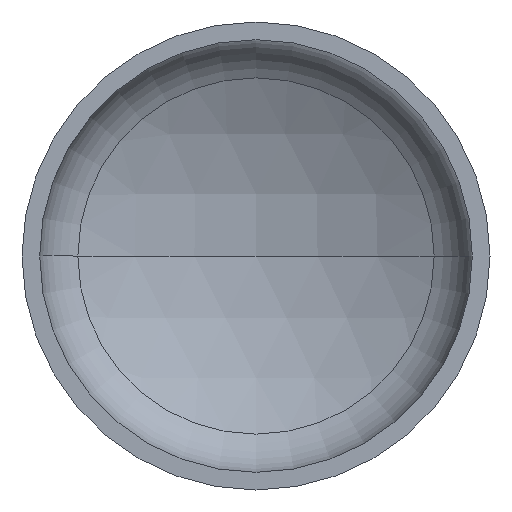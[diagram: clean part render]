
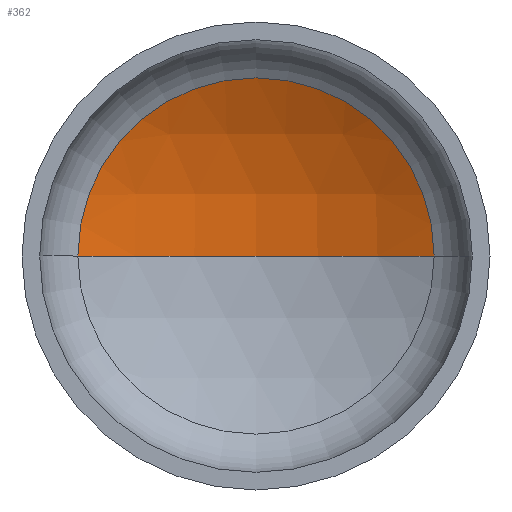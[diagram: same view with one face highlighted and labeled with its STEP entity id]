
A CAD part, front view. The second image highlights one B-rep face of the part: STEP entity #362.
In plain terms, the highlighted spherical face has radius 720 mm.
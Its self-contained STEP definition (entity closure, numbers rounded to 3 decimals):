
#9 = AXIS2_PLACEMENT_3D ( 'NONE', #298, #123, #151 ) ;
#21 = EDGE_LOOP ( 'NONE', ( #132, #125, #96 ) ) ;
#30 = VERTEX_POINT ( 'NONE', #256 ) ;
#39 = DIRECTION ( 'NONE',  ( -1., 0., 0. ) ) ;
#44 = AXIS2_PLACEMENT_3D ( 'NONE', #72, #66, #188 ) ;
#46 = AXIS2_PLACEMENT_3D ( 'NONE', #181, #56, #39 ) ;
#48 = AXIS2_PLACEMENT_3D ( 'NONE', #247, #246, #245 ) ;
#53 = VERTEX_POINT ( 'NONE', #363 ) ;
#56 = DIRECTION ( 'NONE',  ( 0., 0., -1. ) ) ;
#66 = DIRECTION ( 'NONE',  ( 0., 0., 1. ) ) ;
#72 = CARTESIAN_POINT ( 'NONE',  ( 0., -400.122, 0. ) ) ;
#85 = VERTEX_POINT ( 'NONE', #249 ) ;
#96 = ORIENTED_EDGE ( 'NONE', *, *, #201, .T. ) ;
#123 = DIRECTION ( 'NONE',  ( 0., 0., -1. ) ) ;
#125 = ORIENTED_EDGE ( 'NONE', *, *, #215, .T. ) ;
#132 = ORIENTED_EDGE ( 'NONE', *, *, #221, .F. ) ;
#151 = DIRECTION ( 'NONE',  ( -1., 0., 0. ) ) ;
#181 = CARTESIAN_POINT ( 'NONE',  ( 0., -400.122, 0. ) ) ;
#188 = DIRECTION ( 'NONE',  ( 1., 0., 0. ) ) ;
#201 = EDGE_CURVE ( 'NONE', #85, #30, #366, .T. ) ;
#215 = EDGE_CURVE ( 'NONE', #53, #85, #303, .T. ) ;
#221 = EDGE_CURVE ( 'NONE', #53, #30, #244, .T. ) ;
#244 = CIRCLE ( 'NONE', #44, 720. ) ;
#245 = DIRECTION ( 'NONE',  ( 1., 0., 0. ) ) ;
#246 = DIRECTION ( 'NONE',  ( 0., -1., 0. ) ) ;
#247 = CARTESIAN_POINT ( 'NONE',  ( 0., 233.133, 0. ) ) ;
#249 = CARTESIAN_POINT ( 'NONE',  ( 342.621, 233.133, 0. ) ) ;
#256 = CARTESIAN_POINT ( 'NONE',  ( -342.621, 233.133, 0. ) ) ;
#274 = SPHERICAL_SURFACE ( 'NONE', #9, 720. ) ;
#298 = CARTESIAN_POINT ( 'NONE',  ( 0., -400.122, 0. ) ) ;
#303 = CIRCLE ( 'NONE', #46, 720. ) ;
#362 = ADVANCED_FACE ( 'NONE', ( #386 ), #274, .F. ) ;
#363 = CARTESIAN_POINT ( 'NONE',  ( 0., 319.878, 0. ) ) ;
#366 = CIRCLE ( 'NONE', #48, 342.621 ) ;
#386 = FACE_OUTER_BOUND ( 'NONE', #21, .T. ) ;
